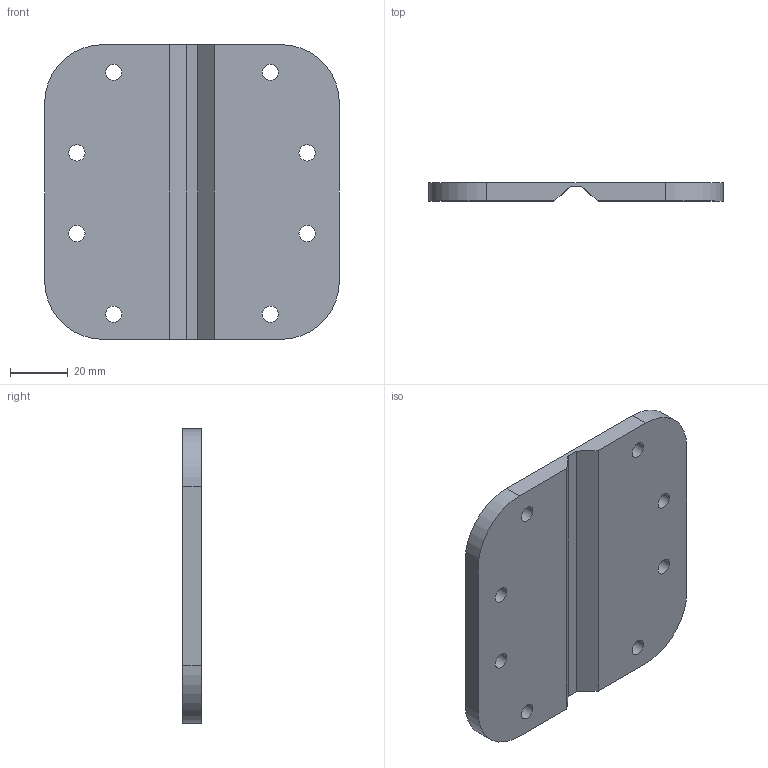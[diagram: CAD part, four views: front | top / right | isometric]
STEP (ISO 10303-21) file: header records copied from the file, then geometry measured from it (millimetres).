
FILE_DESCRIPTION((''),'2;1');
FILE_NAME('6531.01.stp','2015-07-17T10:32:58',(''),(''),'Mechanical Desktop 2006','Mechanical Desktop 2006',', , ');
FILE_SCHEMA(('CONFIG_CONTROL_DESIGN'));
Length unit declared in the file: millimetre
Products named in the file (2): 6531; TEIL1
Assembly tree (1 placements, depth 2):
  6531
    TEIL1
Bounding box: 101.6 x 6.35 x 101.6 mm (x, y, z)
Volume: 57078.1 mm3; surface area: 23059.8 mm2
Topology: 1 solids, 1 shells, 46 faces, 116 edges, 72 vertices
Faces by surface type: cylinder 20, cone 16, plane 10
Entity records: 1529 total; most frequent: DIRECTION 268, CARTESIAN_POINT 236, ORIENTED_EDGE 232, EDGE_CURVE 116, AXIS2_PLACEMENT_3D 104, VERTEX_POINT 72, EDGE_LOOP 62, VECTOR 60
